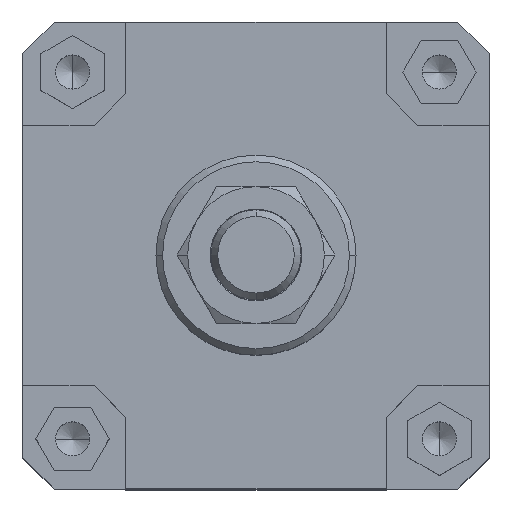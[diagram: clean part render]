
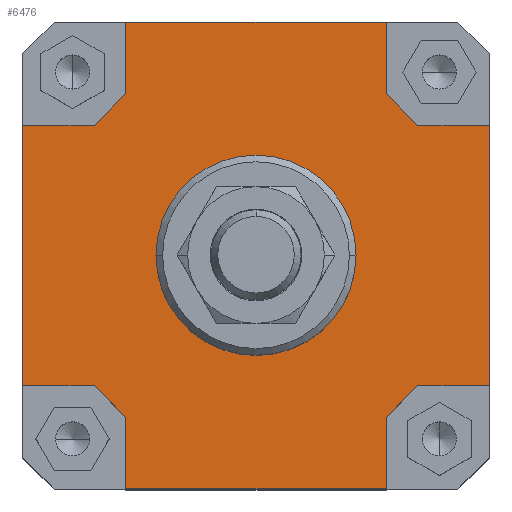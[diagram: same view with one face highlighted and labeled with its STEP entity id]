
A CAD part, top view. The second image highlights one B-rep face of the part: STEP entity #6476.
In plain terms, the highlighted planar face has unit normal (0, 0, 1).
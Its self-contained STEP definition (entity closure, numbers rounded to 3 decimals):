
#2320=CARTESIAN_POINT('',(-30.0,0.,92.5));
#2321=VERTEX_POINT('',#2320);
#2330=CARTESIAN_POINT('',(30.0,0.,92.5));
#2331=VERTEX_POINT('',#2330);
#2332=CARTESIAN_POINT('',(0.0,0.0,92.5));
#2333=DIRECTION('',(0.0,0.0,-1.0));
#2334=DIRECTION('',(-1.0,0.0,0.0));
#2335=AXIS2_PLACEMENT_3D('',#2332,#2333,#2334);
#2336=CIRCLE('',#2335,30.0);
#2337=EDGE_CURVE('',#2331,#2321,#2336,.T.);
#2557=CARTESIAN_POINT('',(0.0,0.0,92.5));
#2558=DIRECTION('',(0.0,0.0,-1.0));
#2559=DIRECTION('',(-1.0,0.0,0.0));
#2560=AXIS2_PLACEMENT_3D('',#2557,#2558,#2559);
#2561=CIRCLE('',#2560,30.0);
#2562=EDGE_CURVE('',#2321,#2331,#2561,.T.);
#2641=CARTESIAN_POINT('',(-39.,70.,92.5));
#2642=VERTEX_POINT('',#2641);
#2649=CARTESIAN_POINT('',(39.,70.,92.5));
#2650=VERTEX_POINT('',#2649);
#2651=CARTESIAN_POINT('',(-39.,70.,92.5));
#2652=DIRECTION('',(1.0,0.0,0.0));
#2653=VECTOR('',#2652,78.);
#2654=LINE('',#2651,#2653);
#2655=EDGE_CURVE('',#2642,#2650,#2654,.T.);
#3100=CARTESIAN_POINT('',(70.,39.,92.5));
#3101=VERTEX_POINT('',#3100);
#3108=CARTESIAN_POINT('',(70.,-39.0,92.5));
#3109=VERTEX_POINT('',#3108);
#3110=CARTESIAN_POINT('',(70.,39.,92.5));
#3111=DIRECTION('',(0.0,-1.0,0.0));
#3112=VECTOR('',#3111,78.);
#3113=LINE('',#3110,#3112);
#3114=EDGE_CURVE('',#3101,#3109,#3113,.T.);
#3181=CARTESIAN_POINT('',(-39.,-48.5,92.5));
#3182=VERTEX_POINT('',#3181);
#3189=CARTESIAN_POINT('',(-48.5,-39.,92.5));
#3190=VERTEX_POINT('',#3189);
#3191=CARTESIAN_POINT('',(-39.,-48.5,92.5));
#3192=DIRECTION('',(-0.707,0.707,0.0));
#3193=VECTOR('',#3192,13.435);
#3194=LINE('',#3191,#3193);
#3195=EDGE_CURVE('',#3182,#3190,#3194,.T.);
#3309=CARTESIAN_POINT('',(-70.,-39.,92.5));
#3310=VERTEX_POINT('',#3309);
#3311=CARTESIAN_POINT('',(-70.,-39.,92.5));
#3312=DIRECTION('',(1.0,0.0,0.0));
#3313=VECTOR('',#3312,21.5);
#3314=LINE('',#3311,#3313);
#3315=EDGE_CURVE('',#3310,#3190,#3314,.T.);
#3342=CARTESIAN_POINT('',(48.5,-39.,92.5));
#3343=VERTEX_POINT('',#3342);
#3350=CARTESIAN_POINT('',(39.,-48.5,92.5));
#3351=VERTEX_POINT('',#3350);
#3352=CARTESIAN_POINT('',(48.5,-39.,92.5));
#3353=DIRECTION('',(-0.707,-0.707,0.0));
#3354=VECTOR('',#3353,13.435);
#3355=LINE('',#3352,#3354);
#3356=EDGE_CURVE('',#3343,#3351,#3355,.T.);
#3454=CARTESIAN_POINT('',(39.,-70.,92.5));
#3455=VERTEX_POINT('',#3454);
#3456=CARTESIAN_POINT('',(39.,-70.,92.5));
#3457=DIRECTION('',(0.0,1.0,0.0));
#3458=VECTOR('',#3457,21.5);
#3459=LINE('',#3456,#3458);
#3460=EDGE_CURVE('',#3455,#3351,#3459,.T.);
#3487=CARTESIAN_POINT('',(39.,48.5,92.5));
#3488=VERTEX_POINT('',#3487);
#3495=CARTESIAN_POINT('',(48.5,39.,92.5));
#3496=VERTEX_POINT('',#3495);
#3497=CARTESIAN_POINT('',(39.,48.5,92.5));
#3498=DIRECTION('',(0.707,-0.707,0.0));
#3499=VECTOR('',#3498,13.435);
#3500=LINE('',#3497,#3499);
#3501=EDGE_CURVE('',#3488,#3496,#3500,.T.);
#3592=CARTESIAN_POINT('',(70.,39.,92.5));
#3593=DIRECTION('',(-1.0,0.0,0.0));
#3594=VECTOR('',#3593,21.5);
#3595=LINE('',#3592,#3594);
#3596=EDGE_CURVE('',#3101,#3496,#3595,.T.);
#3609=CARTESIAN_POINT('',(-48.5,39.,92.5));
#3610=VERTEX_POINT('',#3609);
#3617=CARTESIAN_POINT('',(-39.,48.5,92.5));
#3618=VERTEX_POINT('',#3617);
#3619=CARTESIAN_POINT('',(-48.5,39.,92.5));
#3620=DIRECTION('',(0.707,0.707,0.0));
#3621=VECTOR('',#3620,13.435);
#3622=LINE('',#3619,#3621);
#3623=EDGE_CURVE('',#3610,#3618,#3622,.T.);
#3640=CARTESIAN_POINT('',(-39.,70.,92.5));
#3641=DIRECTION('',(0.0,-1.0,0.0));
#3642=VECTOR('',#3641,21.5);
#3643=LINE('',#3640,#3642);
#3644=EDGE_CURVE('',#2642,#3618,#3643,.T.);
#4674=CARTESIAN_POINT('',(-70.,39.0,92.5));
#4675=VERTEX_POINT('',#4674);
#4676=CARTESIAN_POINT('',(-70.,-39.,92.5));
#4677=DIRECTION('',(0.0,1.0,0.0));
#4678=VECTOR('',#4677,78.0);
#4679=LINE('',#4676,#4678);
#4680=EDGE_CURVE('',#3310,#4675,#4679,.T.);
#6070=CARTESIAN_POINT('',(-48.5,39.,92.5));
#6071=DIRECTION('',(-1.0,0.0,0.0));
#6072=VECTOR('',#6071,21.5);
#6073=LINE('',#6070,#6072);
#6074=EDGE_CURVE('',#3610,#4675,#6073,.T.);
#6231=CARTESIAN_POINT('',(39.,48.5,92.5));
#6232=DIRECTION('',(0.0,1.0,0.0));
#6233=VECTOR('',#6232,21.5);
#6234=LINE('',#6231,#6233);
#6235=EDGE_CURVE('',#3488,#2650,#6234,.T.);
#6392=CARTESIAN_POINT('',(48.5,-39.,92.5));
#6393=DIRECTION('',(1.0,0.0,0.0));
#6394=VECTOR('',#6393,21.5);
#6395=LINE('',#6392,#6394);
#6396=EDGE_CURVE('',#3343,#3109,#6395,.T.);
#6437=CARTESIAN_POINT('',(0.,0.,92.5));
#6438=DIRECTION('',(0.0,0.0,1.0));
#6439=DIRECTION('',(1.0,0.0,0.0));
#6440=AXIS2_PLACEMENT_3D('',#6437,#6438,#6439);
#6441=PLANE('',#6440);
#6442=ORIENTED_EDGE('',*,*,#3644,.T.);
#6443=ORIENTED_EDGE('',*,*,#3623,.F.);
#6444=ORIENTED_EDGE('',*,*,#6074,.T.);
#6445=ORIENTED_EDGE('',*,*,#4680,.F.);
#6446=ORIENTED_EDGE('',*,*,#3315,.T.);
#6447=ORIENTED_EDGE('',*,*,#3195,.F.);
#6448=CARTESIAN_POINT('',(-39.,-70.,92.5));
#6449=VERTEX_POINT('',#6448);
#6450=CARTESIAN_POINT('',(-39.,-48.5,92.5));
#6451=DIRECTION('',(0.0,-1.0,0.0));
#6452=VECTOR('',#6451,21.5);
#6453=LINE('',#6450,#6452);
#6454=EDGE_CURVE('',#3182,#6449,#6453,.T.);
#6455=ORIENTED_EDGE('',*,*,#6454,.T.);
#6456=CARTESIAN_POINT('',(39.,-70.,92.5));
#6457=DIRECTION('',(-1.0,0.0,0.0));
#6458=VECTOR('',#6457,78.);
#6459=LINE('',#6456,#6458);
#6460=EDGE_CURVE('',#3455,#6449,#6459,.T.);
#6461=ORIENTED_EDGE('',*,*,#6460,.F.);
#6462=ORIENTED_EDGE('',*,*,#3460,.T.);
#6463=ORIENTED_EDGE('',*,*,#3356,.F.);
#6464=ORIENTED_EDGE('',*,*,#6396,.T.);
#6465=ORIENTED_EDGE('',*,*,#3114,.F.);
#6466=ORIENTED_EDGE('',*,*,#3596,.T.);
#6467=ORIENTED_EDGE('',*,*,#3501,.F.);
#6468=ORIENTED_EDGE('',*,*,#6235,.T.);
#6469=ORIENTED_EDGE('',*,*,#2655,.F.);
#6470=EDGE_LOOP('',(#6442,#6443,#6444,#6445,#6446,#6447,#6455,#6461,#6462,#6463,#6464,#6465,#6466,#6467,#6468,#6469));
#6471=FACE_OUTER_BOUND('',#6470,.T.);
#6472=ORIENTED_EDGE('',*,*,#2337,.T.);
#6473=ORIENTED_EDGE('',*,*,#2562,.T.);
#6474=EDGE_LOOP('',(#6472,#6473));
#6475=FACE_BOUND('',#6474,.T.);
#6476=ADVANCED_FACE('',(#6471,#6475),#6441,.T.);
